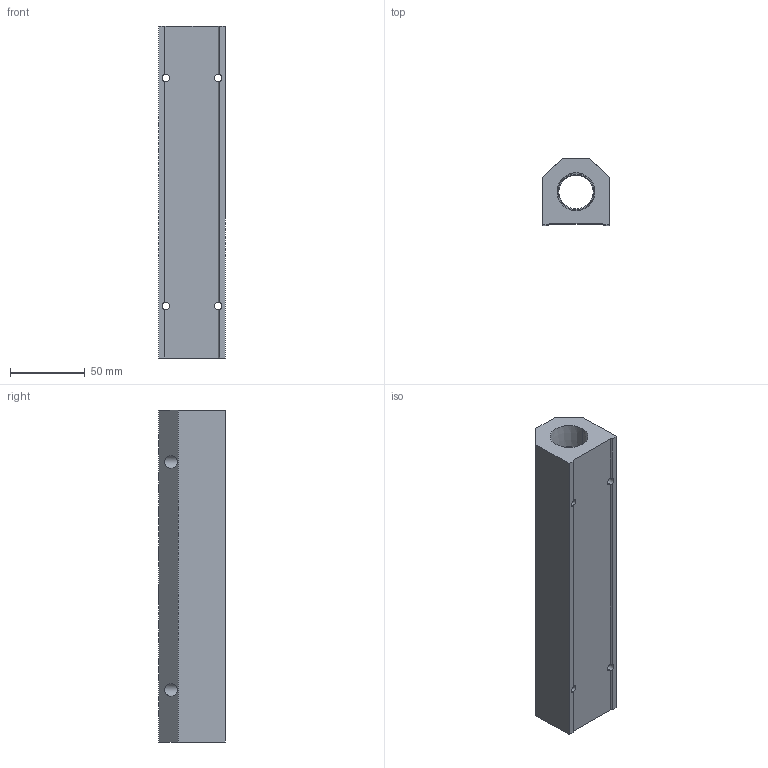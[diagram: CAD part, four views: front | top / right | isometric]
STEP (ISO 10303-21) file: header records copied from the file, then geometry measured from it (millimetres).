
FILE_DESCRIPTION (( 'STEP AP214' ), '1' );
FILE_NAME ('ALM8C-N4N12-222R.step', '2022-02-06T14:06:21', ( '' ), ( '' ), 'SwSTEP 2.0', 'SolidWorks 2020', '' );
FILE_SCHEMA (( 'AUTOMOTIVE_DESIGN' ));
Length unit declared in the file: millimetre
Products named in the file (1): ALM8C-N4N12-222R
Bounding box: 44.5 x 44.5 x 222 mm (x, y, z)
Volume: 285012 mm3; surface area: 59038.4 mm2
Topology: 1 solids, 1 shells, 301 faces, 800 edges, 528 vertices
Faces by surface type: plane 194, bspline 59, cone 26, cylinder 22
Entity records: 16501 total; most frequent: CARTESIAN_POINT 6669, ORIENTED_EDGE 1600, DIRECTION 1192, EDGE_CURVE 800, LINE 578, VECTOR 578, VERTEX_POINT 528, EDGE_LOOP 354
